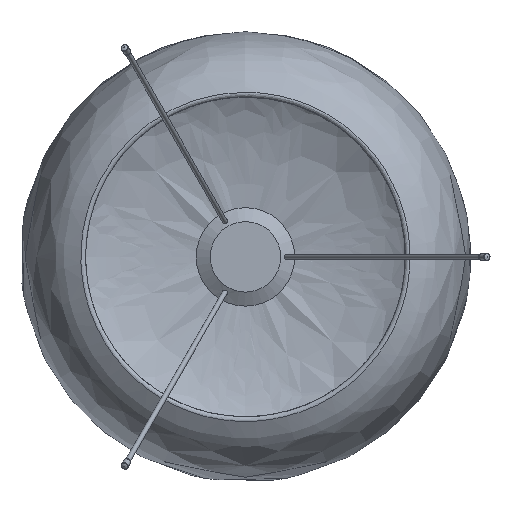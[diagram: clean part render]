
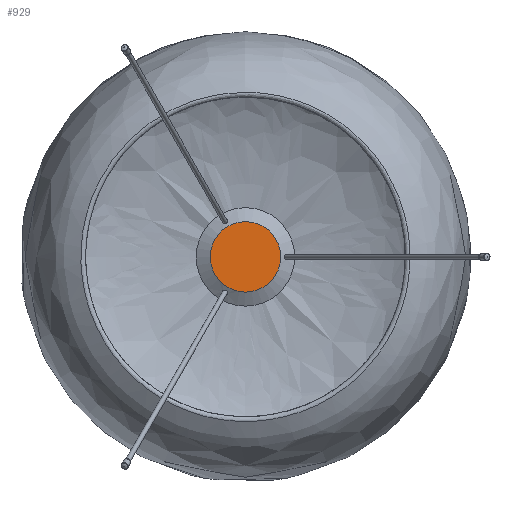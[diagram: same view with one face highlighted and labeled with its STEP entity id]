
A CAD part, front view. The second image highlights one B-rep face of the part: STEP entity #929.
In plain terms, the highlighted planar face has unit normal (0, -1, 0).
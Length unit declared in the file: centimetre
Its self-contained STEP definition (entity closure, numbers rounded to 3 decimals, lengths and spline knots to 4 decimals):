
#123=PLANE('',#1054);
#233=FACE_OUTER_BOUND('',#342,.T.);
#342=EDGE_LOOP('',(#785));
#412=CIRCLE('',#1051,3.9);
#493=VERTEX_POINT('',#3955);
#593=EDGE_CURVE('',#493,#493,#412,.T.);
#785=ORIENTED_EDGE('',*,*,#593,.T.);
#929=ADVANCED_FACE('',(#233),#123,.F.);
#1051=AXIS2_PLACEMENT_3D('',#3956,#1288,#1289);
#1054=AXIS2_PLACEMENT_3D('',#3960,#1294,#1295);
#1288=DIRECTION('center_axis',(0.,-1.,0.));
#1289=DIRECTION('ref_axis',(0.,0.,1.));
#1294=DIRECTION('center_axis',(0.,1.,0.));
#1295=DIRECTION('ref_axis',(0.,0.,1.));
#3955=CARTESIAN_POINT('',(0.,0.,3.9));
#3956=CARTESIAN_POINT('Origin',(0.,0.,0.));
#3960=CARTESIAN_POINT('Origin',(0.,0.,0.));
